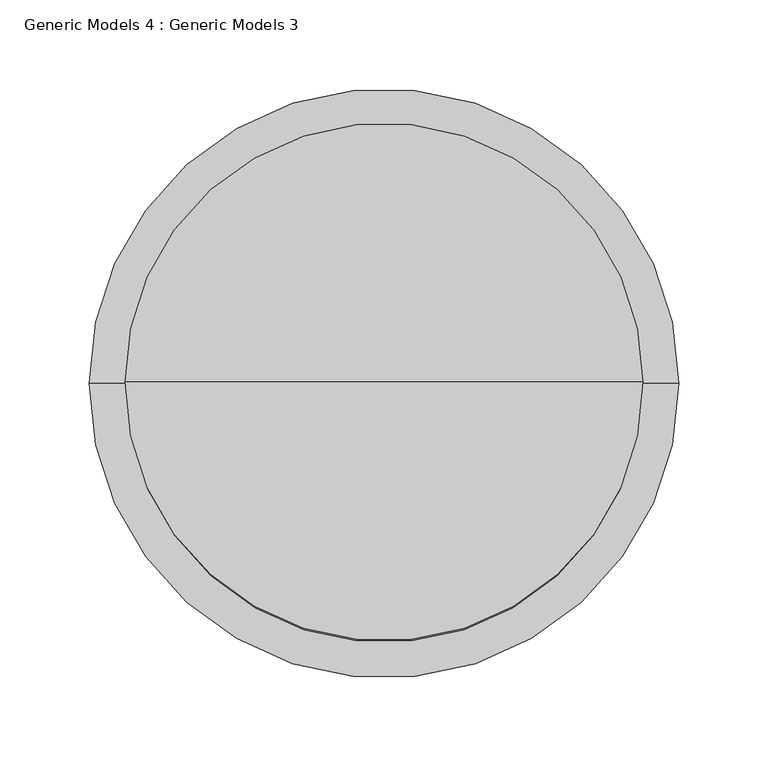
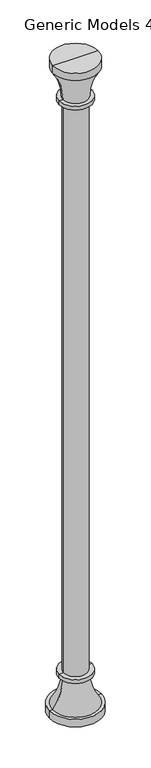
"""IFC4 building model written with IfcOpenShell, lengths in millimetres: proxy geometry, Generic Models 4 : Generic Models 3."""

from ifc_helpers import new_model, si_unit, point, frame, origin, place, context, project, spatial, circle_curve, ellipse_curve, trimmed, source, transform, mapped, element, save
from ifc_brep_helpers import plane_surface, cylinder_surface, revolved_surface, advanced_brep


def generic_models_4_generic_models_3_e1f60436(model_context):
    return source(origin(), model_context, "Body", "AdvancedBrep", [
        advanced_brep(
        [(2970.000082, 149.9932322, 4787.5644347), (2680.000082, 149.9932322, 4787.5644347), (2680.000082, 149.9932322, 4737.5644347), (2970.000082, 149.9932322, 4737.5644347), (2825.000082, 149.9932322, 4787.5644347), (2990.000082, 149.9932322, 400.0), (2660.000082, 149.9932322, 400.0), (2825.000082, 149.9932322, 400.0), (2990.000082, 149.9932322, 450.0), (2660.000082, 149.9932322, 450.0), (2970.000082, 149.9932322, 450.0), (2680.000082, 149.9932322, 450.0), (2905.000082, 149.9932322, 650.0), (2745.000082, 149.9932322, 650.0), (2930.000082, 149.9932322, 650.0), (2720.000082, 149.9932322, 650.0), (2930.000082, 149.9932322, 675.0), (2720.000082, 149.9932322, 675.0), (2900.000082, 149.9932322, 675.0), (2750.000082, 149.9932322, 675.0), (2900.000082, 149.9932322, 4512.5644347), (2750.000082, 149.9932322, 4512.5644347), (2930.000082, 149.9932322, 4512.5644347), (2720.000082, 149.9932322, 4512.5644347), (2930.000082, 149.9932322, 4537.5644347), (2720.000082, 149.9932322, 4537.5644347), (2905.000082, 149.9932322, 4537.5644347), (2745.000082, 149.9932322, 4537.5644347)],
        [
            (0, 1, circle_curve(frame((2825.000082, 149.9932322, 4787.5644347), z_axis=(0.0, 0.0, -1.0), x_axis=(-1.0, 0.0, 0.0)), 145.0)),
            (1, 2),
            (2, 3, circle_curve(frame((2825.000082, 149.9932322, 4737.5644347), z_axis=(0.0, 0.0, 1.0), x_axis=(-1.0, 0.0, 0.0)), 145.0)),
            (3, 0),
            (1, 0, circle_curve(frame((2825.000082, 149.9932322, 4787.5644347), z_axis=(0.0, 0.0, -1.0), x_axis=(-1.0, 0.0, 0.0)), 145.0)),
            (3, 2, circle_curve(frame((2825.000082, 149.9932322, 4737.5644347), z_axis=(0.0, 0.0, 1.0), x_axis=(-1.0, 0.0, 0.0)), 145.0)),
            (4, 1),
            (0, 4),
            (5, 6, circle_curve(frame((2825.000082, 149.9932322, 400.0), z_axis=(0.0, 0.0, -1.0), x_axis=(-1.0, 0.0, 0.0)), 165.0)),
            (6, 7),
            (7, 5),
            (6, 5, circle_curve(frame((2825.000082, 149.9932322, 400.0), z_axis=(0.0, 0.0, -1.0), x_axis=(-1.0, 0.0, 0.0)), 165.0)),
            (8, 9, circle_curve(frame((2825.000082, 149.9932322, 450.0), z_axis=(0.0, 0.0, -1.0), x_axis=(-1.0, 0.0, 0.0)), 165.0)),
            (9, 6),
            (5, 8),
            (9, 8, circle_curve(frame((2825.000082, 149.9932322, 450.0), z_axis=(0.0, 0.0, -1.0), x_axis=(-1.0, 0.0, 0.0)), 165.0)),
            (10, 11, circle_curve(frame((2825.000082, 149.9932322, 450.0), z_axis=(0.0, 0.0, -1.0), x_axis=(-1.0, 0.0, 0.0)), 145.0)),
            (11, 9),
            (8, 10),
            (11, 10, circle_curve(frame((2825.000082, 149.9932322, 450.0), z_axis=(0.0, 0.0, -1.0), x_axis=(-1.0, 0.0, 0.0)), 145.0)),
            (12, 13, circle_curve(frame((2825.000082, 149.9932322, 650.0), z_axis=(0.0, 0.0, -1.0), x_axis=(-1.0, 0.0, 0.0)), 80.0)),
            (13, 11, circle_curve(frame((2406.2840242, 149.9932322, 649.5202188), z_axis=(0.0, 1.0, 0.0), x_axis=(1.0, 0.0, 0.0)), 338.7163976)),
            (10, 12, circle_curve(frame((3243.7161398, 149.9932322, 649.5202188), z_axis=(0.0, 1.0, 0.0), x_axis=(-1.0, 0.0, 0.0)), 338.7163976)),
            (13, 12, circle_curve(frame((2825.000082, 149.9932322, 650.0), z_axis=(0.0, 0.0, -1.0), x_axis=(-1.0, 0.0, 0.0)), 80.0)),
            (14, 15, circle_curve(frame((2825.000082, 149.9932322, 650.0), z_axis=(0.0, 0.0, -1.0), x_axis=(-1.0, 0.0, 0.0)), 105.0)),
            (15, 13),
            (12, 14),
            (15, 14, circle_curve(frame((2825.000082, 149.9932322, 650.0), z_axis=(0.0, 0.0, -1.0), x_axis=(-1.0, 0.0, 0.0)), 105.0)),
            (16, 17, circle_curve(frame((2825.000082, 149.9932322, 675.0), z_axis=(0.0, 0.0, -1.0), x_axis=(-1.0, 0.0, 0.0)), 105.0)),
            (17, 15),
            (14, 16),
            (17, 16, circle_curve(frame((2825.000082, 149.9932322, 675.0), z_axis=(0.0, 0.0, -1.0), x_axis=(-1.0, 0.0, 0.0)), 105.0)),
            (18, 19, circle_curve(frame((2825.000082, 149.9932322, 675.0), z_axis=(0.0, 0.0, -1.0), x_axis=(-1.0, 0.0, 0.0)), 75.0)),
            (19, 17),
            (16, 18),
            (19, 18, circle_curve(frame((2825.000082, 149.9932322, 675.0), z_axis=(0.0, 0.0, -1.0), x_axis=(-1.0, 0.0, 0.0)), 75.0)),
            (20, 21, circle_curve(frame((2825.000082, 149.9932322, 4512.5644347), z_axis=(0.0, 0.0, -1.0), x_axis=(-1.0, 0.0, 0.0)), 75.0)),
            (21, 19),
            (18, 20),
            (21, 20, circle_curve(frame((2825.000082, 149.9932322, 4512.5644347), z_axis=(0.0, 0.0, -1.0), x_axis=(-1.0, 0.0, 0.0)), 75.0)),
            (22, 23, circle_curve(frame((2825.000082, 149.9932322, 4512.5644347), z_axis=(0.0, 0.0, -1.0), x_axis=(-1.0, 0.0, 0.0)), 105.0)),
            (23, 21),
            (20, 22),
            (23, 22, circle_curve(frame((2825.000082, 149.9932322, 4512.5644347), z_axis=(0.0, 0.0, -1.0), x_axis=(-1.0, 0.0, 0.0)), 105.0)),
            (24, 25, circle_curve(frame((2825.000082, 149.9932322, 4537.5644347), z_axis=(0.0, 0.0, -1.0), x_axis=(-1.0, 0.0, 0.0)), 105.0)),
            (25, 23),
            (22, 24),
            (25, 24, circle_curve(frame((2825.000082, 149.9932322, 4537.5644347), z_axis=(0.0, 0.0, -1.0), x_axis=(-1.0, 0.0, 0.0)), 105.0)),
            (26, 27, circle_curve(frame((2825.000082, 149.9932322, 4537.5644347), z_axis=(0.0, 0.0, -1.0), x_axis=(-1.0, 0.0, 0.0)), 80.0)),
            (27, 25),
            (24, 26),
            (27, 26, circle_curve(frame((2825.000082, 149.9932322, 4537.5644347), z_axis=(0.0, 0.0, -1.0), x_axis=(-1.0, 0.0, 0.0)), 80.0)),
            (2, 27, circle_curve(frame((2406.2840242, 149.9932322, 4538.0442159), z_axis=(0.0, 1.0, 0.0), x_axis=(1.0, 0.0, 0.0)), 338.7163976)),
            (26, 3, circle_curve(frame((3243.7161398, 149.9932322, 4538.0442159), z_axis=(0.0, 1.0, 0.0), x_axis=(-1.0, 0.0, 0.0)), 338.7163976)),
        ],
        [
            cylinder_surface(frame((2825.000082, 149.9932322, 4787.5644347), z_axis=(0.0, 0.0, 1.0), x_axis=(-1.0, 0.0, 0.0)), 145.0),
            plane_surface(frame((2825.000082, 149.9932322, 4787.5644347), z_axis=(0.0, 0.0, 1.0), x_axis=(-1.0, 0.0, 0.0))),
            plane_surface(frame((2825.000082, 149.9932322, 400.0), z_axis=(0.0, 0.0, -1.0), x_axis=(-1.0, 0.0, 0.0))),
            cylinder_surface(frame((2825.000082, 149.9932322, 4787.5644347), z_axis=(0.0, 0.0, 1.0), x_axis=(-1.0, 0.0, 0.0)), 165.0),
            plane_surface(frame((2825.000082, 149.9932322, 450.0), z_axis=(0.0, 0.0, 1.0), x_axis=(-1.0, 0.0, 0.0))),
            revolved_surface(trimmed(ellipse_curve(frame((2406.2840242, 149.9932322, 649.5202188), z_axis=(0.0, -1.0, 0.0), x_axis=(1.0, 0.0, 0.0)), 338.7163976, 338.7163976), [point((2680.000082, 149.9932322, 450.0))], [point((2745.000082, 149.9932322, 650.0))], True, "CARTESIAN"), (2825.000082, 149.9932322, 4787.5644347), (0.0, 0.0, 1.0)),
            plane_surface(frame((2825.000082, 149.9932322, 650.0), z_axis=(0.0, 0.0, -1.0), x_axis=(-1.0, 0.0, 0.0))),
            cylinder_surface(frame((2825.000082, 149.9932322, 4787.5644347), z_axis=(0.0, 0.0, 1.0), x_axis=(-1.0, 0.0, 0.0)), 105.0),
            plane_surface(frame((2825.000082, 149.9932322, 675.0), z_axis=(0.0, 0.0, 1.0), x_axis=(-1.0, 0.0, 0.0))),
            cylinder_surface(frame((2825.000082, 149.9932322, 4787.5644347), z_axis=(0.0, 0.0, 1.0), x_axis=(-1.0, 0.0, 0.0)), 75.0),
            plane_surface(frame((2825.000082, 149.9932322, 4512.5644347), z_axis=(0.0, 0.0, -1.0), x_axis=(-1.0, 0.0, 0.0))),
            plane_surface(frame((2825.000082, 149.9932322, 4537.5644347), z_axis=(0.0, 0.0, 1.0), x_axis=(-1.0, 0.0, 0.0))),
            revolved_surface(trimmed(ellipse_curve(frame((2406.2840242, 149.9932322, 4538.0442159), z_axis=(0.0, -1.0, 0.0), x_axis=(1.0, 0.0, 0.0)), 338.7163976, 338.7163976), [point((2745.000082, 149.9932322, 4537.5644347))], [point((2680.000082, 149.9932322, 4737.5644347))], True, "CARTESIAN"), (2825.000082, 149.9932322, 4787.5644347), (0.0, 0.0, 1.0)),
        ],
        [
            (0, [[1, 2, 3, 4]]),
            (0, [[5, -4, 6, -2]]),
            (1, [[7, -1, 8]]),
            (1, [[-8, -5, -7]]),
            (2, [[9, 10, 11]]),
            (2, [[12, -11, -10]]),
            (3, [[13, 14, -9, 15]]),
            (3, [[16, -15, -12, -14]]),
            (4, [[17, 18, -13, 19]]),
            (4, [[20, -19, -16, -18]]),
            (5, [[21, 22, -17, 23]]),
            (5, [[24, -23, -20, -22]]),
            (6, [[25, 26, -21, 27]]),
            (6, [[28, -27, -24, -26]]),
            (7, [[29, 30, -25, 31]]),
            (7, [[32, -31, -28, -30]]),
            (8, [[33, 34, -29, 35]]),
            (8, [[36, -35, -32, -34]]),
            (9, [[37, 38, -33, 39]]),
            (9, [[40, -39, -36, -38]]),
            (10, [[41, 42, -37, 43]]),
            (10, [[44, -43, -40, -42]]),
            (7, [[45, 46, -41, 47]]),
            (7, [[48, -47, -44, -46]]),
            (11, [[49, 50, -45, 51]]),
            (11, [[52, -51, -48, -50]]),
            (12, [[-3, 53, -49, 54]]),
            (12, [[-6, -54, -52, -53]]),
        ],
    ),
    ])


if __name__ == "__main__":
    model = new_model("IFC4")
    model_context = context("Model", 3, world=origin())
    ifc_project = project(units=[si_unit("LENGTHUNIT", "METRE", prefix="MILLI")], contexts=[model_context])
    site = spatial("IfcSite", under=ifc_project)
    building = spatial("IfcBuilding", under=site)
    placement = place(None, origin())
    generic_models_4_generic_models_3_shape = generic_models_4_generic_models_3_e1f60436(model_context)
    element("IfcBuildingElementProxy", 1, Name="Generic Models 4 : Generic Models 3", ObjectType="Generic Models 4 : Generic Models 3", at=placement, inside=building, context=model_context, shape_type="MappedRepresentation", body=[
        mapped(generic_models_4_generic_models_3_shape, transform((0.0, 0.0, 0.0), x_axis=(1.0, 0.0, 0.0), y_axis=(0.0, 1.0, 0.0), z_axis=(0.0, 0.0, 1.0))),
    ])
    save(model, "model.ifc")
